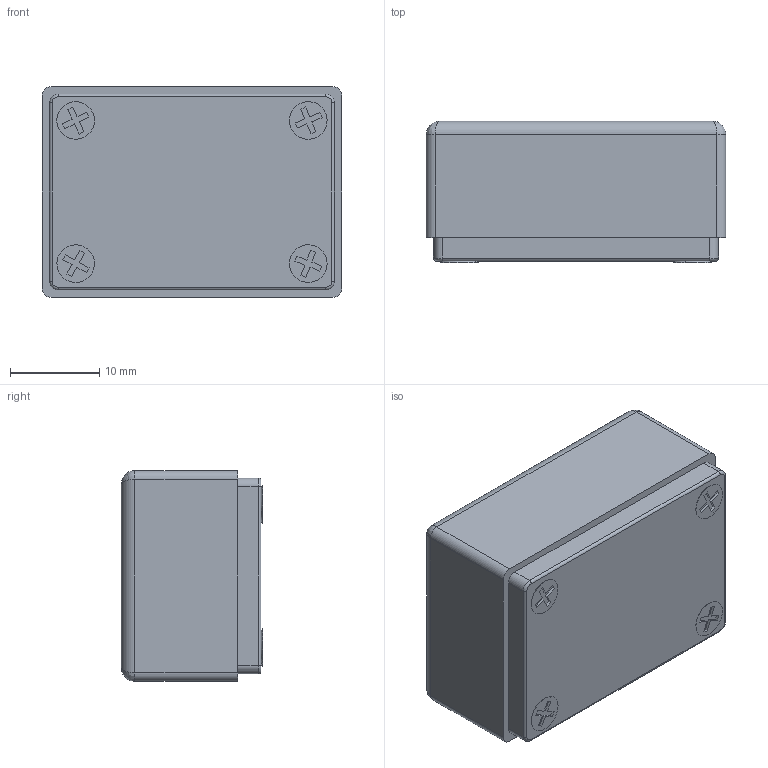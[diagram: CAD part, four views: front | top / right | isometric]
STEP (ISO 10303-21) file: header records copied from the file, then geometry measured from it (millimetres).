
FILE_DESCRIPTION (( 'STEP AP214' ), '1' );
FILE_NAME ('Conjunt PP85A.STEP', '2018-01-22T10:49:56', ( 'aaa' ), ( '' ), 'SwSTEP 2.0', 'SolidWorks 2013', '' );
FILE_SCHEMA (( 'AUTOMOTIVE_DESIGN' ));
Length unit declared in the file: millimetre
Products named in the file (4): Cargol 2,2x9,5 PP85A; Tapa PP85A; Base PP85A; Conjunt PP85A
Assembly tree (6 placements, depth 2):
  Conjunt PP85A
    Base PP85A
    Tapa PP85A
    Cargol 2,2x9,5 PP85A  x4
Bounding box: 33.5 x 15.8 x 23.57 mm (x, y, z)
Volume: 5452.3 mm3; surface area: 7269.2 mm2
Topology: 6 solids, 6 shells, 444 faces, 962 edges, 544 vertices
Faces by surface type: cone 264, plane 101, cylinder 71, torus 4, bspline 4
Entity records: 5716 total; most frequent: CARTESIAN_POINT 1090, DIRECTION 1020, ORIENTED_EDGE 872, EDGE_CURVE 436, AXIS2_PLACEMENT_3D 392, VERTEX_POINT 262, VECTOR 236, LINE 236
